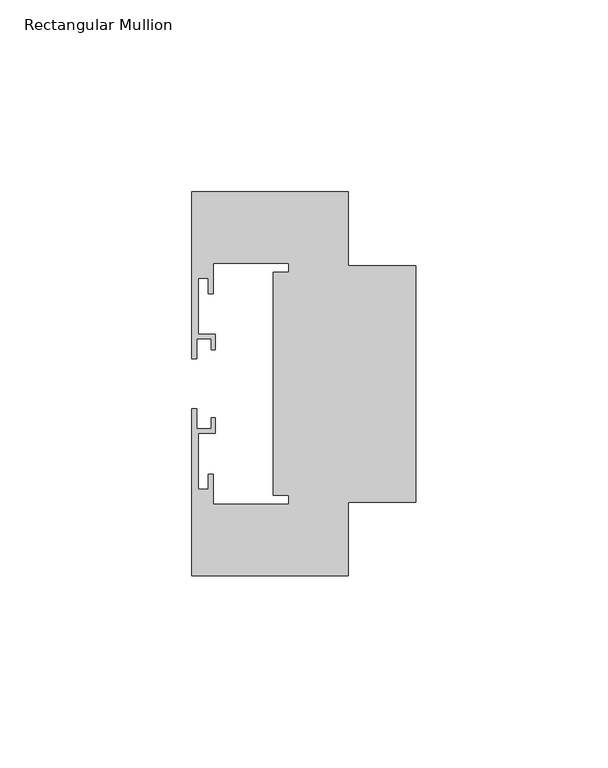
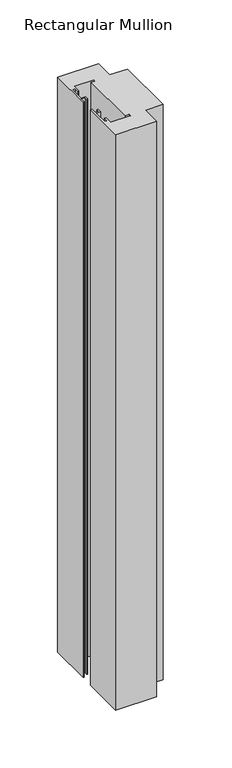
"""IFC4 building model written with IfcOpenShell, lengths in millimetres: member geometry, Rectangular Mullion : Frame-Teknion-OptosLP-Base_Channel."""

from ifc_helpers import new_model, si_unit, frame, origin, place, context, project, spatial, polyline, outline, extrude, source, transform, mapped, element, save


def rectangular_mullion_df59ae26(model_context):
    return source(origin(), model_context, "Body", "SweptSolid", [
        extrude(outline(polyline([(-17.6080204, 50.0127381), (-17.6080204, 30.8132734), (0.0, 30.8132734), (0.0, -30.8132734), (-17.6080204, -30.8132734), (-17.6080204, -50.0127381), (-58.3491472, -50.0127381), (-58.3491472, -6.5559427), (-57.0374251, -6.5559427), (-57.0374251, -11.7067955), (-53.2912811, -11.7067955), (-53.2912811, -8.897378), (-52.2608056, -8.897378), (-52.2608056, -12.9247686), (-56.6631918, -12.9247686), (-56.6631918, -27.5351116), (-54.1342588, -27.5351116), (-54.1342588, -23.5077209), (-52.8232989, -23.5077209), (-52.8232989, -31.3750045), (-33.061341, -31.3750045), (-33.061341, -29.0335692), (-37.1824805, -29.0335692), (-37.1824805, 29.0335692), (-33.061341, 29.0335692), (-33.061341, 31.3750045), (-52.8232989, 31.3750045), (-52.8232989, 23.5077209), (-54.1342588, 23.5077209), (-54.1342588, 27.5351116), (-56.6631918, 27.5351116), (-56.6631918, 12.9247686), (-52.2608056, 12.9247686), (-52.2608056, 8.897378), (-53.2912811, 8.897378), (-53.2912811, 11.7067955), (-57.0374251, 11.7067955), (-57.0374251, 6.5559427), (-58.3491472, 6.5559427), (-58.3491472, 50.0127381), (-17.6080204, 50.0127381)])), frame((0.0, 0.0, -605.7316121), z_axis=(0.0, 0.0, 1.0), x_axis=(1.0, 0.0, 0.0)), (0.0, 0.0, 1.0), 605.7316121),
    ])


if __name__ == "__main__":
    model = new_model("IFC4")
    model_context = context("Model", 3, world=origin())
    ifc_project = project(units=[si_unit("LENGTHUNIT", "METRE", prefix="MILLI")], contexts=[model_context])
    site = spatial("IfcSite", under=ifc_project)
    building = spatial("IfcBuilding", under=site)
    placement = place(None, origin())
    rectangular_mullion_shape = rectangular_mullion_df59ae26(model_context)
    element("IfcMember", 1, ObjectType="Rectangular Mullion : Frame-Teknion-OptosLP-Base_Channel", at=placement, inside=building, context=model_context, shape_type="MappedRepresentation", body=[
        mapped(rectangular_mullion_shape, transform((0.0, 0.0, 0.0), x_axis=(1.0, 0.0, 0.0), y_axis=(0.0, 1.0, 0.0), z_axis=(0.0, 0.0, 1.0))),
    ])
    save(model, "model.ifc")
